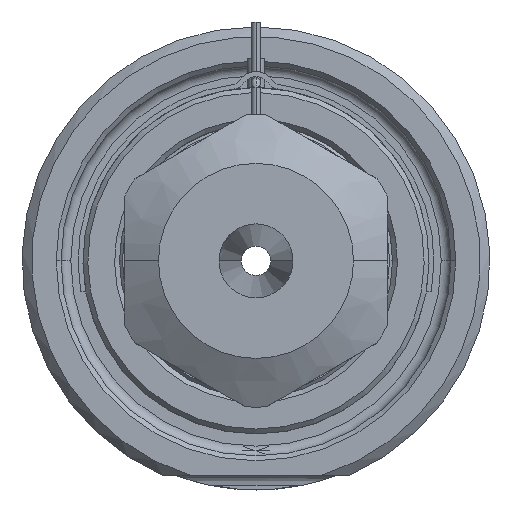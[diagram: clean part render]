
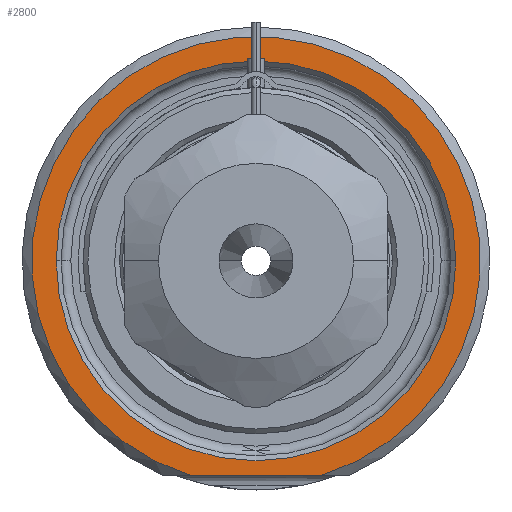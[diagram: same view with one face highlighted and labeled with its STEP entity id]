
A CAD part, front view. The second image highlights one B-rep face of the part: STEP entity #2800.
In plain terms, the highlighted planar face has unit normal (0, -1, 0).
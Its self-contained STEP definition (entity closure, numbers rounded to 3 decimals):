
#1=DIRECTION('',(1.,0.,0.));
#2=VECTOR('',#1,13.416);
#3=CARTESIAN_POINT('',(-6.708,0.,-22.));
#4=LINE('',#3,#2);
#5=CARTESIAN_POINT('',(0.,0.,0.));
#6=DIRECTION('',(0.,1.,0.));
#7=DIRECTION('',(-1.,0.,0.));
#8=AXIS2_PLACEMENT_3D('',#5,#6,#7);
#10=CARTESIAN_POINT('',(0.,0.,0.));
#11=DIRECTION('',(0.,1.,0.));
#12=DIRECTION('',(1.,0.,0.));
#13=AXIS2_PLACEMENT_3D('',#10,#11,#12);
#121=CARTESIAN_POINT('',(0.,0.,0.));
#122=DIRECTION('',(0.,-1.,0.));
#123=DIRECTION('',(0.292,0.,-0.957));
#124=AXIS2_PLACEMENT_3D('',#121,#122,#123);
#2342=CARTESIAN_POINT('',(-20.5,0.,0.));
#2343=CARTESIAN_POINT('',(20.5,0.,0.));
#2344=VERTEX_POINT('',#2342);
#2345=VERTEX_POINT('',#2343);
#2396=CARTESIAN_POINT('',(-6.708,0.,-22.));
#2397=CARTESIAN_POINT('',(6.708,0.,-22.));
#2398=VERTEX_POINT('',#2396);
#2399=VERTEX_POINT('',#2397);
#2783=CARTESIAN_POINT('',(0.,0.,0.));
#2784=DIRECTION('',(0.,-1.,0.));
#2785=DIRECTION('',(1.,0.,0.));
#2786=AXIS2_PLACEMENT_3D('',#2783,#2784,#2785);
#2787=PLANE('',#2786);
#2789=ORIENTED_EDGE('',*,*,#2788,.F.);
#2791=ORIENTED_EDGE('',*,*,#2790,.F.);
#2792=EDGE_LOOP('',(#2789,#2791));
#2793=FACE_OUTER_BOUND('',#2792,.F.);
#2795=ORIENTED_EDGE('',*,*,#2794,.F.);
#2797=ORIENTED_EDGE('',*,*,#2796,.F.);
#2798=EDGE_LOOP('',(#2795,#2797));
#2799=FACE_BOUND('',#2798,.F.);
#2800=ADVANCED_FACE('',(#2793,#2799),#2787,.T.);
#9=CIRCLE('',#8,20.5);
#14=CIRCLE('',#13,20.5);
#125=CIRCLE('',#124,23.);
#2788=EDGE_CURVE('',#2398,#2399,#4,.T.);
#2790=EDGE_CURVE('',#2399,#2398,#125,.T.);
#2794=EDGE_CURVE('',#2344,#2345,#9,.T.);
#2796=EDGE_CURVE('',#2345,#2344,#14,.T.);
